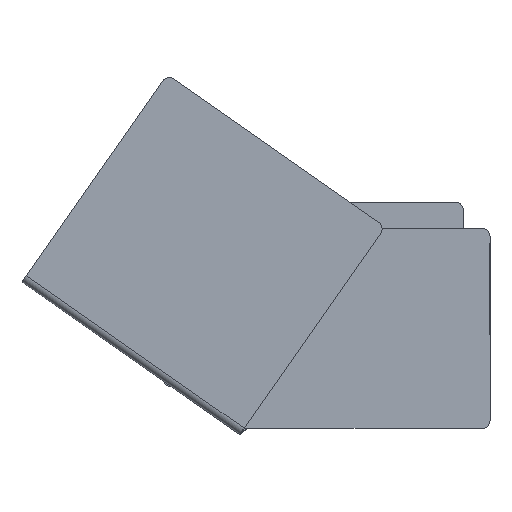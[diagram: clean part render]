
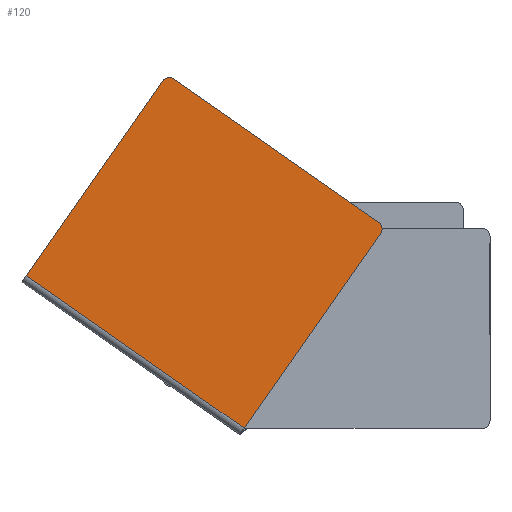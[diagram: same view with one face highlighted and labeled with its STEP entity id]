
A CAD part, top view. The second image highlights one B-rep face of the part: STEP entity #120.
In plain terms, the highlighted planar face has unit normal (0, 0, -1).
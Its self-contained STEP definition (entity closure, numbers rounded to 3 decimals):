
#120=ADVANCED_FACE('',(#206),#1934,.T.);
#206=FACE_OUTER_BOUND('',#292,.T.);
#292=EDGE_LOOP('',(#388,#389,#390,#391,#392,#393));
#388=ORIENTED_EDGE('',*,*,#839,.F.);
#389=ORIENTED_EDGE('',*,*,#838,.F.);
#390=ORIENTED_EDGE('',*,*,#837,.F.);
#391=ORIENTED_EDGE('',*,*,#836,.F.);
#392=ORIENTED_EDGE('',*,*,#835,.F.);
#393=ORIENTED_EDGE('',*,*,#834,.F.);
#834=EDGE_CURVE('',#1577,#1578,#1226,.T.);
#835=EDGE_CURVE('',#1578,#1579,#1227,.T.);
#836=EDGE_CURVE('',#1579,#1580,#1228,.T.);
#837=EDGE_CURVE('',#1580,#1581,#1229,.T.);
#838=EDGE_CURVE('',#1581,#1582,#1230,.T.);
#839=EDGE_CURVE('',#1582,#1577,#1200,.T.);
#1200=(
BOUNDED_CURVE()
B_SPLINE_CURVE(3,(#2622,#2623,#2624,#2625),.UNSPECIFIED.,.F.,.F.)
B_SPLINE_CURVE_WITH_KNOTS((4,4),(0.,345.726),.UNSPECIFIED.)
CURVE()
GEOMETRIC_REPRESENTATION_ITEM()
RATIONAL_B_SPLINE_CURVE((1.,1.,1.,1.))
REPRESENTATION_ITEM('')
);
#1226=B_SPLINE_CURVE_WITH_KNOTS('',3,(#2594,#2595,#2596,#2597,#2598,#2599,
#2600,#2601,#2602,#2603,#2604,#2605,#2606,#2607),.UNSPECIFIED.,.F.,.F.,
(4,2,2,2,2,2,4),(429.18,432.324,439.029,452.44,
479.263,532.908,737.546),.UNSPECIFIED.);
#1227=B_SPLINE_CURVE_WITH_KNOTS('',3,(#2608,#2609,#2610,#2611),
 .UNSPECIFIED.,.F.,.F.,(4,4),(0.,15.708),.UNSPECIFIED.);
#1228=B_SPLINE_CURVE_WITH_KNOTS('',3,(#2612,#2613,#2614,#2615),
 .UNSPECIFIED.,.F.,.F.,(4,4),(757.493,1083.218),
 .UNSPECIFIED.);
#1229=B_SPLINE_CURVE_WITH_KNOTS('',3,(#2616,#2617,#2618,#2619),
 .UNSPECIFIED.,.F.,.F.,(4,4),(0.,15.708),.UNSPECIFIED.);
#1230=B_SPLINE_CURVE_WITH_KNOTS('',1,(#2620,#2621),.UNSPECIFIED.,.F.,.F.,
(2,2),(10.,320.),.UNSPECIFIED.);
#1577=VERTEX_POINT('',#2540);
#1578=VERTEX_POINT('',#2541);
#1579=VERTEX_POINT('',#2542);
#1580=VERTEX_POINT('',#2543);
#1581=VERTEX_POINT('',#2544);
#1582=VERTEX_POINT('',#2545);
#1934=PLANE('',#2069);
#2069=AXIS2_PLACEMENT_3D('',#2208,#2138,$);
#2138=DIRECTION('',(0.,0.,-1.));
#2208=CARTESIAN_POINT('',(472.495,270.331,535.));
#2540=CARTESIAN_POINT('',(288.951,8.203,534.998));
#2541=CARTESIAN_POINT('',(466.759,262.14,535.));
#2542=CARTESIAN_POINT('',(464.304,276.067,535.));
#2543=CARTESIAN_POINT('',(197.484,462.896,535.));
#2544=CARTESIAN_POINT('',(183.557,460.44,535.));
#2545=CARTESIAN_POINT('',(5.748,206.503,535.));
#2594=CARTESIAN_POINT('',(288.951,8.203,534.998));
#2595=CARTESIAN_POINT('',(289.549,9.058,535.003));
#2596=CARTESIAN_POINT('',(290.15,9.915,534.999));
#2597=CARTESIAN_POINT('',(292.05,12.628,535.));
#2598=CARTESIAN_POINT('',(293.335,14.465,535.));
#2599=CARTESIAN_POINT('',(297.251,20.056,535.));
#2600=CARTESIAN_POINT('',(299.795,23.689,535.));
#2601=CARTESIAN_POINT('',(307.592,34.826,535.));
#2602=CARTESIAN_POINT('',(312.629,42.019,535.));
#2603=CARTESIAN_POINT('',(328.105,64.121,535.));
#2604=CARTESIAN_POINT('',(338.51,78.981,535.));
#2605=CARTESIAN_POINT('',(388.049,149.729,535.));
#2606=CARTESIAN_POINT('',(427.41,205.943,535.));
#2607=CARTESIAN_POINT('',(466.759,262.14,535.));
#2608=CARTESIAN_POINT('',(466.759,262.14,535.));
#2609=CARTESIAN_POINT('',(469.927,266.664,535.));
#2610=CARTESIAN_POINT('',(468.828,272.899,535.));
#2611=CARTESIAN_POINT('',(464.304,276.067,535.));
#2612=CARTESIAN_POINT('',(464.304,276.067,535.));
#2613=CARTESIAN_POINT('',(375.403,338.316,535.));
#2614=CARTESIAN_POINT('',(286.45,400.602,535.));
#2615=CARTESIAN_POINT('',(197.484,462.896,535.));
#2616=CARTESIAN_POINT('',(197.484,462.896,535.));
#2617=CARTESIAN_POINT('',(192.96,466.064,535.));
#2618=CARTESIAN_POINT('',(186.725,464.964,535.));
#2619=CARTESIAN_POINT('',(183.557,460.44,535.));
#2620=CARTESIAN_POINT('',(183.557,460.44,535.));
#2621=CARTESIAN_POINT('',(5.748,206.503,535.));
#2622=CARTESIAN_POINT('',(5.748,206.503,535.));
#2623=CARTESIAN_POINT('',(100.149,140.403,535.));
#2624=CARTESIAN_POINT('',(194.55,74.303,535.));
#2625=CARTESIAN_POINT('',(288.951,8.203,534.998));
